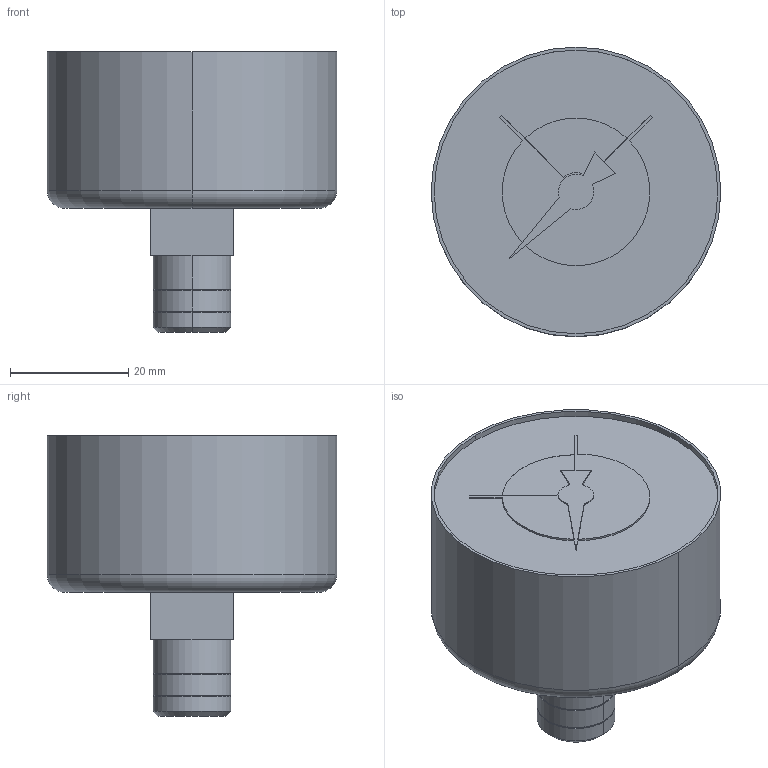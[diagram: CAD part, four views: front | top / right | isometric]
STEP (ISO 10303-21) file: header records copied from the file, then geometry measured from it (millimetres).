
FILE_DESCRIPTION((''),'2;1');
FILE_NAME('R412007871','2020-10-06T18:40:42',('GIO1HC'),(''),'CREO PARAMETRIC BY PTC INC, 2018190','CREO PARAMETRIC BY PTC INC, 2018190','');
FILE_SCHEMA(('AUTOMOTIVE_DESIGN { 1 0 10303 214 1 1 1 1 }'));
Length unit declared in the file: millimetre
Products named in the file (1): R412007871
Bounding box: 49 x 49 x 47.5 mm (x, y, z)
Volume: 51341.9 mm3; surface area: 8931.2 mm2
Topology: 1 solids, 1 shells, 53 faces, 119 edges, 74 vertices
Faces by surface type: plane 24, cylinder 17, cone 10, torus 2
Entity records: 1661 total; most frequent: DIRECTION 291, CARTESIAN_POINT 259, ORIENTED_EDGE 238, EDGE_CURVE 119, AXIS2_PLACEMENT_3D 108, VECTOR 75, LINE 75, VERTEX_POINT 74
